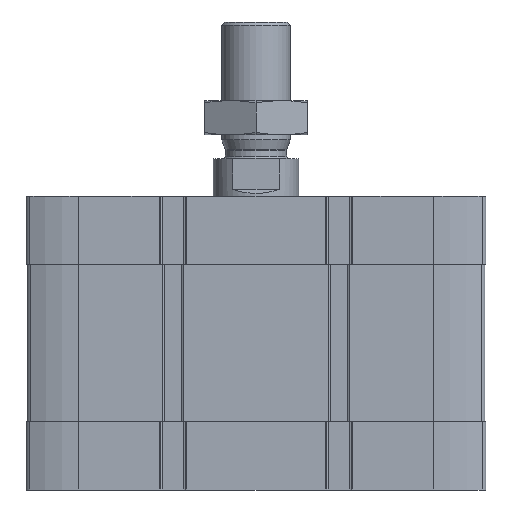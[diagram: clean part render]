
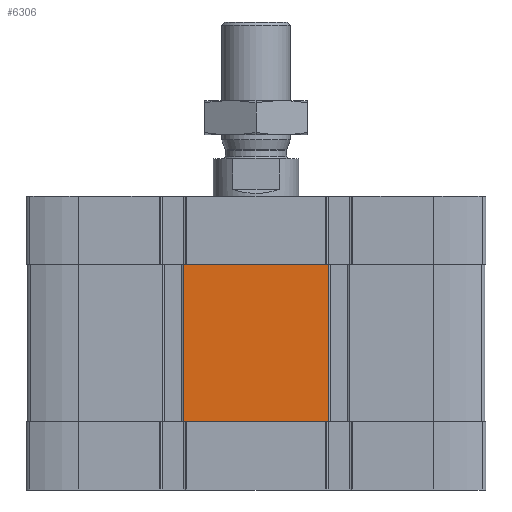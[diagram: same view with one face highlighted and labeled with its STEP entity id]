
A CAD part, front view. The second image highlights one B-rep face of the part: STEP entity #6306.
In plain terms, the highlighted planar face has unit normal (0, -1, 0).
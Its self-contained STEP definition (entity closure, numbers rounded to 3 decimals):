
#54 = VERTEX_POINT ( 'NONE', #15567 ) ;
#230 = CARTESIAN_POINT ( 'NONE',  ( -67., -67., -20. ) ) ;
#664 = CARTESIAN_POINT ( 'NONE',  ( -21.3, -67., -20. ) ) ;
#1009 = CARTESIAN_POINT ( 'NONE',  ( 20.687, -67., -20. ) ) ;
#1283 = VERTEX_POINT ( 'NONE', #12564 ) ;
#1886 = DIRECTION ( 'NONE',  ( 1., 0., 0. ) ) ;
#2232 = CARTESIAN_POINT ( 'NONE',  ( 21.3, -67., -20. ) ) ;
#2462 = LINE ( 'NONE', #8055, #5980 ) ;
#2979 = VECTOR ( 'NONE', #4864, 1000. ) ;
#3338 = ORIENTED_EDGE ( 'NONE', *, *, #9999, .F. ) ;
#3606 = VECTOR ( 'NONE', #6842, 1000. ) ;
#3617 = VERTEX_POINT ( 'NONE', #12219 ) ;
#3774 = EDGE_LOOP ( 'NONE', ( #10285, #3802, #13760, #11801, #11529, #8223, #3338, #4422 ) ) ;
#3802 = ORIENTED_EDGE ( 'NONE', *, *, #15661, .T. ) ;
#3823 = VERTEX_POINT ( 'NONE', #8239 ) ;
#3872 = LINE ( 'NONE', #15349, #10260 ) ;
#4016 = DIRECTION ( 'NONE',  ( 1., 0., 0. ) ) ;
#4422 = ORIENTED_EDGE ( 'NONE', *, *, #9204, .F. ) ;
#4572 = DIRECTION ( 'NONE',  ( 0., 0., 1. ) ) ;
#4864 = DIRECTION ( 'NONE',  ( 1., 0., 0. ) ) ;
#5456 = VERTEX_POINT ( 'NONE', #2232 ) ;
#5588 = CARTESIAN_POINT ( 'NONE',  ( 20.687, -67., -66. ) ) ;
#5980 = VECTOR ( 'NONE', #4016, 1000. ) ;
#6253 = DIRECTION ( 'NONE',  ( 1., 0., 0. ) ) ;
#6306 = ADVANCED_FACE ( 'NONE', ( #12454 ), #16581, .T. ) ;
#6823 = LINE ( 'NONE', #15552, #10174 ) ;
#6842 = DIRECTION ( 'NONE',  ( 1., 0., 0. ) ) ;
#7677 = EDGE_CURVE ( 'NONE', #54, #14612, #2462, .T. ) ;
#8055 = CARTESIAN_POINT ( 'NONE',  ( -21.3, -67., -66. ) ) ;
#8223 = ORIENTED_EDGE ( 'NONE', *, *, #9431, .F. ) ;
#8239 = CARTESIAN_POINT ( 'NONE',  ( 21.3, -67., -66. ) ) ;
#8336 = VECTOR ( 'NONE', #6253, 1000. ) ;
#8677 = LINE ( 'NONE', #230, #8898 ) ;
#8898 = VECTOR ( 'NONE', #1886, 1000. ) ;
#9204 = EDGE_CURVE ( 'NONE', #9269, #3617, #12259, .T. ) ;
#9269 = VERTEX_POINT ( 'NONE', #16661 ) ;
#9431 = EDGE_CURVE ( 'NONE', #14293, #5456, #8677, .T. ) ;
#9591 = CARTESIAN_POINT ( 'NONE',  ( -67., -67., -20. ) ) ;
#9686 = DIRECTION ( 'NONE',  ( 0., -1., 0. ) ) ;
#9999 = EDGE_CURVE ( 'NONE', #3617, #14293, #13241, .T. ) ;
#10174 = VECTOR ( 'NONE', #12523, 1000. ) ;
#10260 = VECTOR ( 'NONE', #10942, 1000. ) ;
#10285 = ORIENTED_EDGE ( 'NONE', *, *, #17899, .F. ) ;
#10942 = DIRECTION ( 'NONE',  ( 1., 0., 0. ) ) ;
#11511 = AXIS2_PLACEMENT_3D ( 'NONE', #13644, #9686, #13910 ) ;
#11529 = ORIENTED_EDGE ( 'NONE', *, *, #11667, .T. ) ;
#11667 = EDGE_CURVE ( 'NONE', #3823, #5456, #6823, .T. ) ;
#11801 = ORIENTED_EDGE ( 'NONE', *, *, #13236, .T. ) ;
#11897 = LINE ( 'NONE', #14391, #14977 ) ;
#12219 = CARTESIAN_POINT ( 'NONE',  ( -20.687, -67., -20. ) ) ;
#12259 = LINE ( 'NONE', #9591, #3606 ) ;
#12454 = FACE_OUTER_BOUND ( 'NONE', #3774, .T. ) ;
#12523 = DIRECTION ( 'NONE',  ( 0., 0., 1. ) ) ;
#12564 = CARTESIAN_POINT ( 'NONE',  ( -21.3, -67., -66. ) ) ;
#13236 = EDGE_CURVE ( 'NONE', #14612, #3823, #17076, .T. ) ;
#13241 = LINE ( 'NONE', #664, #8336 ) ;
#13644 = CARTESIAN_POINT ( 'NONE',  ( -67., -67., -66. ) ) ;
#13760 = ORIENTED_EDGE ( 'NONE', *, *, #7677, .T. ) ;
#13910 = DIRECTION ( 'NONE',  ( 0., 0., -1. ) ) ;
#14293 = VERTEX_POINT ( 'NONE', #1009 ) ;
#14332 = CARTESIAN_POINT ( 'NONE',  ( -67., -67., -66. ) ) ;
#14391 = CARTESIAN_POINT ( 'NONE',  ( -21.3, -67., -66. ) ) ;
#14612 = VERTEX_POINT ( 'NONE', #5588 ) ;
#14977 = VECTOR ( 'NONE', #4572, 1000. ) ;
#15349 = CARTESIAN_POINT ( 'NONE',  ( -67., -67., -66. ) ) ;
#15552 = CARTESIAN_POINT ( 'NONE',  ( 21.3, -67., -66. ) ) ;
#15567 = CARTESIAN_POINT ( 'NONE',  ( -20.687, -67., -66. ) ) ;
#15661 = EDGE_CURVE ( 'NONE', #1283, #54, #3872, .T. ) ;
#16581 = PLANE ( 'NONE',  #11511 ) ;
#16661 = CARTESIAN_POINT ( 'NONE',  ( -21.3, -67., -20. ) ) ;
#17076 = LINE ( 'NONE', #14332, #2979 ) ;
#17899 = EDGE_CURVE ( 'NONE', #1283, #9269, #11897, .T. ) ;
